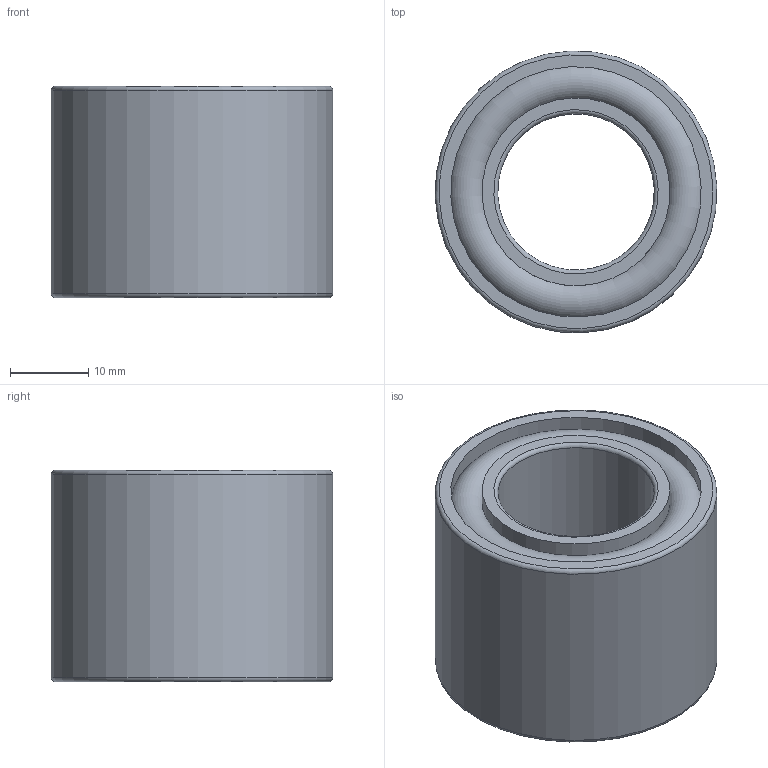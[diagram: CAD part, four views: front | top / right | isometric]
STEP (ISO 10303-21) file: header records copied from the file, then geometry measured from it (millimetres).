
FILE_DESCRIPTION(/* description */ (''),/* implementation_level */ '2;1');
FILE_NAME(/* name */ '300670 FP 432 Z.stp',/* time_stamp */ '2016-11-17T13:45:31+01:00',/* author */ (''),/* organization */ (''),/* preprocessor_version */ 'ST-DEVELOPER v15',/* originating_system */ 'SIEMENS PLM Software NX 8.5',/* authorisation */ '');
FILE_SCHEMA (('CONFIG_CONTROL_DESIGN'));
Length unit declared in the file: millimetre
Products named in the file (3): ATE0000080_01; ATE0000093_01; ATE0000095_01
Assembly tree (2 placements, depth 2):
  ATE0000095_01
    ATE0000093_01
    ATE0000080_01
Bounding box: 35.97 x 35.97 x 27 mm (x, y, z)
Volume: 14661.9 mm3; surface area: 15235.7 mm2
Topology: 3 solids, 3 shells, 72 faces, 157 edges, 103 vertices
Faces by surface type: plane 44, cylinder 22, torus 6
Full cylindrical faces by diameter (mm): 20 x1, 24 x3, 28 x1, 29 x1, 30 x1, 31 x2, 32 x4, 36 x1
Entity records: 2128 total; most frequent: DIRECTION 342, CARTESIAN_POINT 299, ORIENTED_EDGE 256, AXIS2_PLACEMENT_3D 139, EDGE_CURVE 128, EDGE_LOOP 112, VERTEX_POINT 96, ADVANCED_FACE 72
